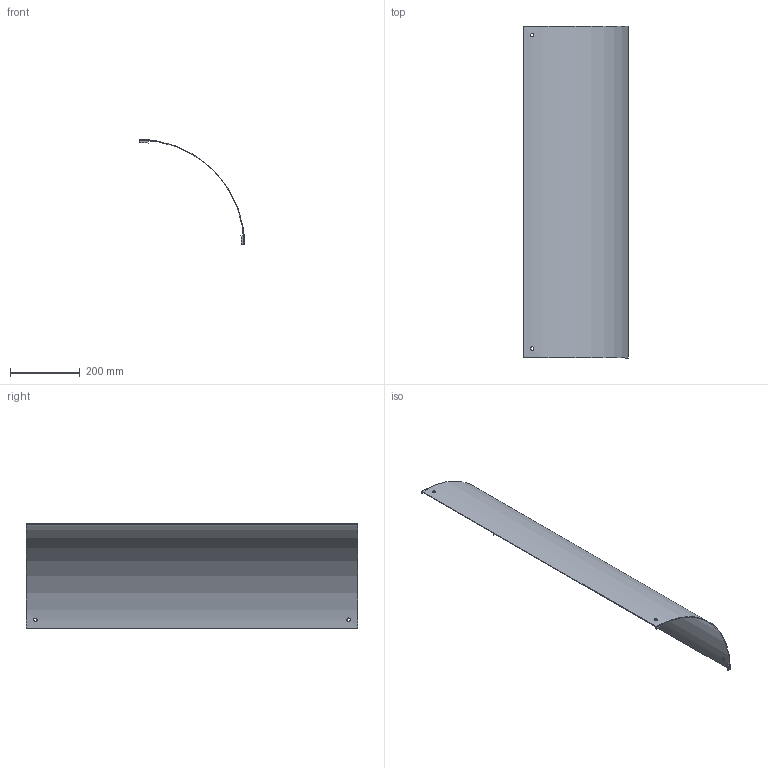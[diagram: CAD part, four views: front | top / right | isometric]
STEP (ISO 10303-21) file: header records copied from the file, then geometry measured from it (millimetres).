
FILE_DESCRIPTION(/* description */ ('','CAx-IF Rec.Pracs.---Representation and Presentation of Product Manufacturing Information (PMI)---4.0---2014-10-13'),/* implementation_level */ '2;1');
FILE_NAME(/* name */ 'Eurostrut_EORC900-90-300_Cover Outside Riser 90 for Cable Ladder ECL.step',/* time_stamp */ '2026-09-10T12:24:30+02:00',/* author */ (''),/* organization */ (''),/* preprocessor_version */ 'ST-DEVELOPER v20.1',/* originating_system */ 'Autodesk Revit 2027 27.2.0.39',/* authorisation */ '');
FILE_SCHEMA (('AP242_MANAGED_MODEL_BASED_3D_ENGINEERING_MIM_LF { 1 0 10303 442 2 1 4 }'));
Length unit declared in the file: millimetre
Products named in the file (3): TopLevelAssembly; Sweep; Joined Solid Geometry
Assembly tree (2 placements, depth 2):
  TopLevelAssembly
    Sweep
    Joined Solid Geometry
Bounding box: 301.5 x 953 x 301.5 mm (x, y, z)
Volume: 675975.2 mm3; surface area: 906155.7 mm2
Topology: 5 solids, 5 shells, 38 faces, 84 edges, 56 vertices
Faces by surface type: plane 20, cylinder 18
Entity records: 1356 total; most frequent: CARTESIAN_POINT 459, DIRECTION 174, ORIENTED_EDGE 168, EDGE_CURVE 84, AXIS2_PLACEMENT_3D 63, VERTEX_POINT 56, LINE 48, VECTOR 48
